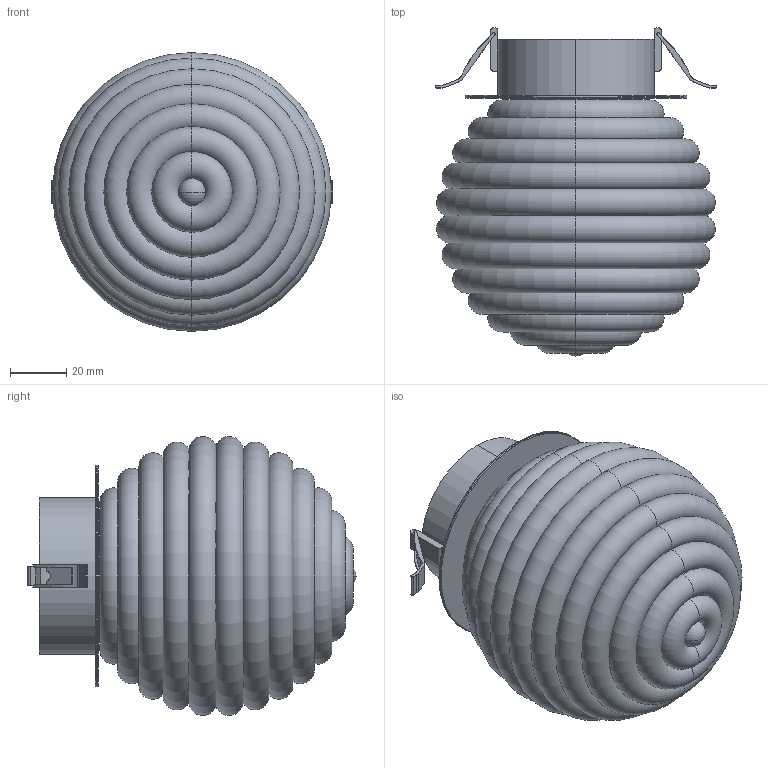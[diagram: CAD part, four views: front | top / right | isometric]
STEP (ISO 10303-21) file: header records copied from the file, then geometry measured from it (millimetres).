
FILE_DESCRIPTION (( 'STEP AP214' ), '1' );
FILE_NAME ('DOUL_TR1310.STEP', '2026-04-28T07:07:40', ( '' ), ( '' ), 'SwSTEP 2.0', 'SolidWorks 2023', '' );
FILE_SCHEMA (( 'AUTOMOTIVE_DESIGN' ));
Length unit declared in the file: millimetre
Products named in the file (3): CABEZAL_DOUL_T1310; DOUL_TR1310; EP1279_79
Assembly tree (2 placements, depth 2):
  DOUL_TR1310
    EP1279_79
    CABEZAL_DOUL_T1310
Bounding box: 100.36 x 117.1 x 99.49 mm (x, y, z)
Volume: 150334.1 mm3; surface area: 81457.6 mm2
Topology: 6 solids, 6 shells, 131 faces, 319 edges, 203 vertices
Faces by surface type: plane 55, cylinder 40, torus 30, sphere 4, bspline 2
Entity records: 4022 total; most frequent: DIRECTION 728, CARTESIAN_POINT 720, ORIENTED_EDGE 628, EDGE_CURVE 314, AXIS2_PLACEMENT_3D 288, VERTEX_POINT 200, CIRCLE 154, LINE 152
